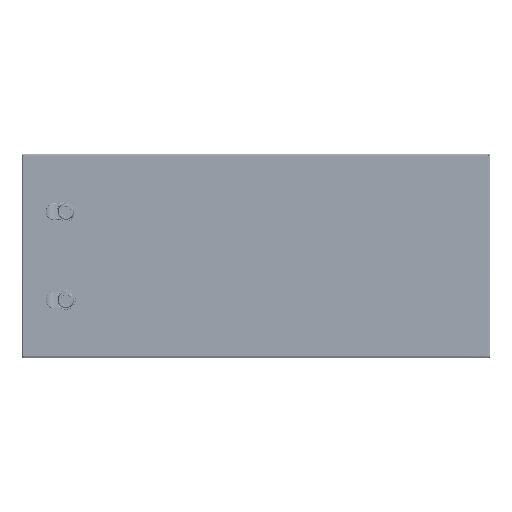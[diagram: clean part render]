
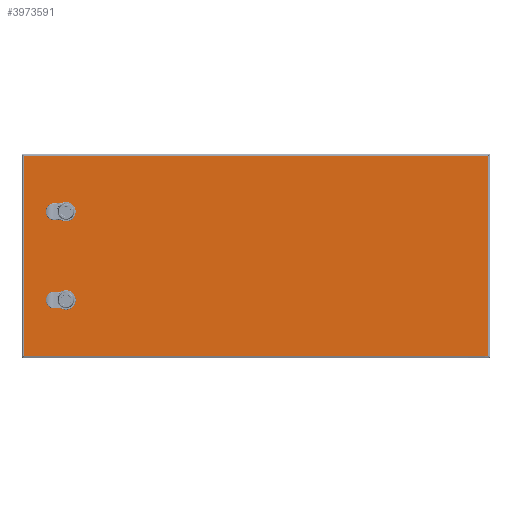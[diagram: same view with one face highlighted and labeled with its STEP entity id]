
A CAD part, top view. The second image highlights one B-rep face of the part: STEP entity #3973591.
In plain terms, the highlighted planar face has unit normal (0, 0, 1).
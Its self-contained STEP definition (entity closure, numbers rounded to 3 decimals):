
#3967721=CARTESIAN_POINT(' ',(389.389,172.733,333.103));
#3967722=VERTEX_POINT(' ',#3967721);
#3968386=CARTESIAN_POINT(' ',(389.389,-166.667,333.103));
#3968387=VERTEX_POINT(' ',#3968386);
#3969231=CARTESIAN_POINT(' ',(389.389,172.733,333.103));
#3969236=DIRECTION(' ',(0.,-1.,0.));
#3969241=VECTOR(' ',#3969236,1.);
#3969246=LINE('',#3969231,#3969241);
#3969251=EDGE_CURVE(' ',#3967722,#3968387,#3969246,.T.);
#3971236=CARTESIAN_POINT(' ',(-399.011,-166.667,333.103));
#3971237=VERTEX_POINT(' ',#3971236);
#3971776=CARTESIAN_POINT(' ',(-399.011,172.733,333.103));
#3971777=VERTEX_POINT(' ',#3971776);
#3973461=DIRECTION(' ',(-0.,-0.,1.));
#3973466=CARTESIAN_POINT(' ',(389.389,-166.667,333.103));
#3973471=DIRECTION(' ',(0.,1.,0.));
#3973476=AXIS2_PLACEMENT_3D(' ',#3973466,#3973461,#3973471);
#3973481=PLANE('NONE',#3973476);
#3973486=CARTESIAN_POINT(' ',(-399.011,-166.667,333.103));
#3973491=DIRECTION(' ',(1.,0.,0.));
#3973496=VECTOR(' ',#3973491,1.);
#3973501=LINE('',#3973486,#3973496);
#3973506=EDGE_CURVE(' ',#3971237,#3968387,#3973501,.T.);
#3973511=ORIENTED_EDGE(' ',*,*,#3973506,.T.);
#3973516=ORIENTED_EDGE(' ',*,*,#3969251,.F.);
#3973521=CARTESIAN_POINT(' ',(389.389,172.733,333.103));
#3973526=DIRECTION(' ',(-1.,0.,0.));
#3973531=VECTOR(' ',#3973526,1.);
#3973536=LINE('',#3973521,#3973531);
#3973541=EDGE_CURVE(' ',#3967722,#3971777,#3973536,.T.);
#3973546=ORIENTED_EDGE(' ',*,*,#3973541,.T.);
#3973551=CARTESIAN_POINT(' ',(-399.011,172.733,333.103));
#3973556=DIRECTION(' ',(0.,-1.,0.));
#3973561=VECTOR(' ',#3973556,1.);
#3973566=LINE('',#3973551,#3973561);
#3973571=EDGE_CURVE(' ',#3971777,#3971237,#3973566,.T.);
#3973576=ORIENTED_EDGE(' ',*,*,#3973571,.T.);
#3973581=EDGE_LOOP(' ',(#3973511,#3973516,#3973546,#3973576));
#3973586=FACE_OUTER_BOUND(' ',#3973581,.T.);
#3973591=ADVANCED_FACE('NONE',(#3973586),#3973481,.T.);
